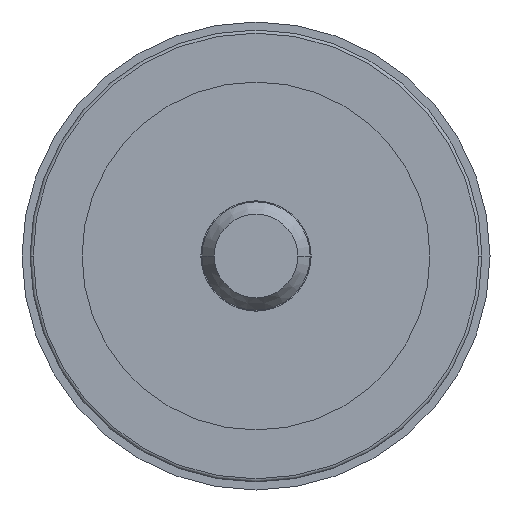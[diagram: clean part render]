
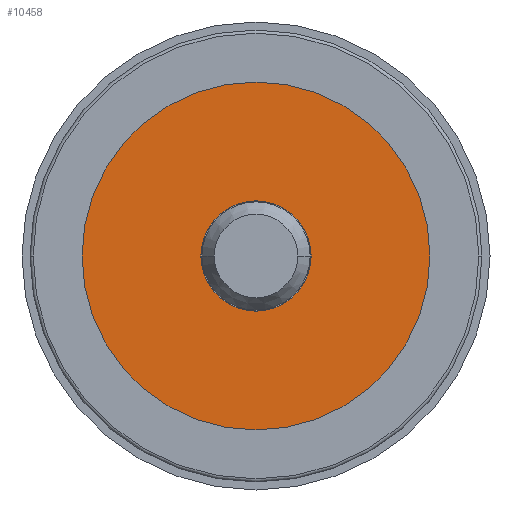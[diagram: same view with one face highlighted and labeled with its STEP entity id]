
A CAD part, left-side view. The second image highlights one B-rep face of the part: STEP entity #10458.
In plain terms, the highlighted planar face has unit normal (-1, 0, 0).
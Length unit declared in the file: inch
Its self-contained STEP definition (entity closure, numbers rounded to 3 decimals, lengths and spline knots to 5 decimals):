
#2066=CARTESIAN_POINT('',(0.,0.,0.));
#2067=DIRECTION('',(1.,0.,0.));
#2068=DIRECTION('',(0.,-1.,0.));
#2069=AXIS2_PLACEMENT_3D('',#2066,#2067,#2068);
#2071=CARTESIAN_POINT('',(0.,0.,0.));
#2072=DIRECTION('',(1.,0.,0.));
#2073=DIRECTION('',(0.,1.,0.));
#2074=AXIS2_PLACEMENT_3D('',#2071,#2072,#2073);
#2076=CARTESIAN_POINT('',(0.,0.,0.));
#2077=DIRECTION('',(-1.,0.,0.));
#2078=DIRECTION('',(0.,1.,0.));
#2079=AXIS2_PLACEMENT_3D('',#2076,#2077,#2078);
#2081=CARTESIAN_POINT('',(0.,0.,0.));
#2082=DIRECTION('',(-1.,0.,0.));
#2083=DIRECTION('',(0.,-1.,0.));
#2084=AXIS2_PLACEMENT_3D('',#2081,#2082,#2083);
#8042=CARTESIAN_POINT('',(0.,0.281,0.));
#8043=VERTEX_POINT('',#8042);
#8044=CARTESIAN_POINT('',(0.,-0.281,0.));
#8045=VERTEX_POINT('',#8044);
#8046=CARTESIAN_POINT('',(0.,0.089,0.));
#8047=CARTESIAN_POINT('',(0.,-0.089,0.));
#8048=VERTEX_POINT('',#8046);
#8049=VERTEX_POINT('',#8047);
#10443=CARTESIAN_POINT('',(0.,0.,0.));
#10444=DIRECTION('',(1.,0.,0.));
#10445=DIRECTION('',(0.,-1.,0.));
#10446=AXIS2_PLACEMENT_3D('',#10443,#10444,#10445);
#10447=PLANE('',#10446);
#10448=ORIENTED_EDGE('',*,*,#10437,.T.);
#10449=ORIENTED_EDGE('',*,*,#10423,.T.);
#10450=EDGE_LOOP('',(#10448,#10449));
#10451=FACE_OUTER_BOUND('',#10450,.F.);
#10453=ORIENTED_EDGE('',*,*,#10452,.T.);
#10455=ORIENTED_EDGE('',*,*,#10454,.T.);
#10456=EDGE_LOOP('',(#10453,#10455));
#10457=FACE_BOUND('',#10456,.F.);
#2070=CIRCLE('',#2069,0.281);
#2075=CIRCLE('',#2074,0.281);
#2080=CIRCLE('',#2079,0.089);
#2085=CIRCLE('',#2084,0.089);
#10423=EDGE_CURVE('',#8043,#8045,#2075,.T.);
#10437=EDGE_CURVE('',#8045,#8043,#2070,.T.);
#10452=EDGE_CURVE('',#8048,#8049,#2080,.T.);
#10454=EDGE_CURVE('',#8049,#8048,#2085,.T.);
#10458=ADVANCED_FACE('',(#10451,#10457),#10447,.F.);
